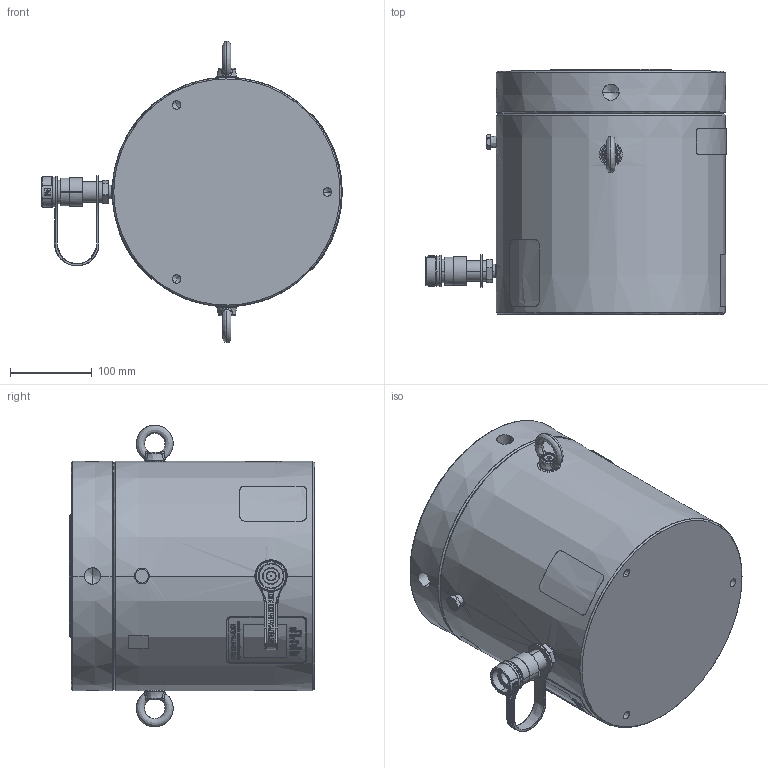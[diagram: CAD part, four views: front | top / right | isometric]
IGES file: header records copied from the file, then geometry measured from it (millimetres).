
Start section:  PTC IGES file: hcl2504.igs
Global section: file name: hcl2504.igs; native system: Creo Parametric by PTC Inc.; preprocessor: 2015290; author: Akhilesh.Subrahmanya; organization: Unknown; date: 20170621.140131; units: millimetre
Bounding box: 366.72 x 299 x 367.94 mm (x, y, z)
Surface area: 590761.7 mm2 (no closed solid volume)
Topology: 0 solids, 0 shells, 678 faces, 6024 edges, 6006 vertices
Faces by surface type: revolution 390, bspline 284, extrusion 4
